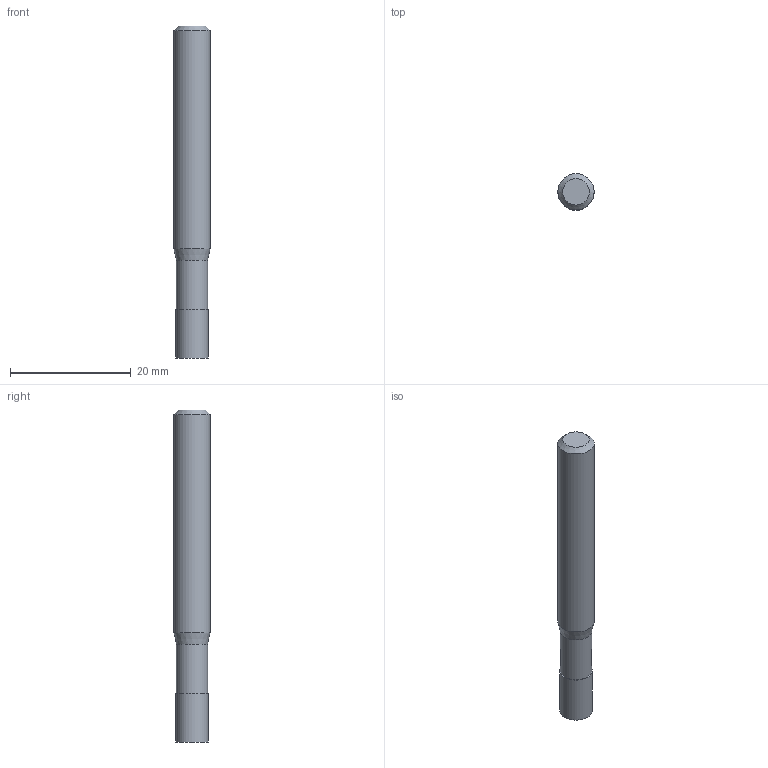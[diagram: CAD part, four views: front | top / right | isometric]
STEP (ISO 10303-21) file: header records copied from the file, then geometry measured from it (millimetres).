
FILE_DESCRIPTION((''),'2;1');
FILE_NAME('C:\Users\nsx150\AppData\Local\Temp\Mastercam 2021\EUJSUNXURU\TEMP.step','2021-04-22T10:28:39',(''),(''),'STEP Write','Mastercam 2021 ... CNC Software, Inc.','');
FILE_SCHEMA(('AUTOMOTIVE_DESIGN'));
Length unit declared in the file: millimetre
Products named in the file (1): None
Bounding box: 6 x 6 x 55 mm (x, y, z)
Volume: 1442.3 mm3; surface area: 1085.1 mm2
Topology: 2 solids, 2 shells, 9 faces, 12 edges, 7 vertices
Faces by surface type: plane 4, cylinder 3, cone 2
Full cylindrical faces by diameter (mm): 5.2 x1, 5.4 x1, 6 x1
Entity records: 211 total; most frequent: DIRECTION 36, CARTESIAN_POINT 25, AXIS2_PLACEMENT_3D 18, ORIENTED_EDGE 14, EDGE_LOOP 14, STYLED_ITEM 12, ADVANCED_FACE 9, FACE_BOUND 8
